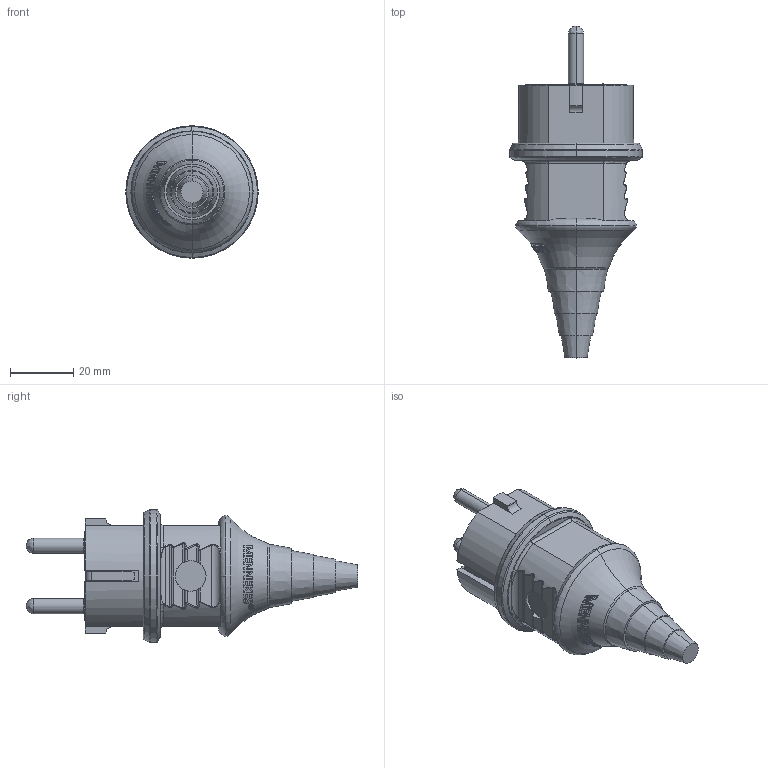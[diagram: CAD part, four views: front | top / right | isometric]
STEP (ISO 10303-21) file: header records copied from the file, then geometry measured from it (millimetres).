
FILE_DESCRIPTION((''),'2;1');
FILE_NAME('1117856_ASM_SW0009','2018-08-13T',('hoffmannf'),('MENNEKES'),'PRO/ENGINEER BY PARAMETRIC TECHNOLOGY CORPORATION, 2015440','PRO/ENGINEER BY PARAMETRIC TECHNOLOGY CORPORATION, 2015440','');
FILE_SCHEMA(('AUTOMOTIVE_DESIGN { 1 0 10303 214 1 1 1 1 }'));
Length unit declared in the file: millimetre
Products named in the file (1): 1117856_ASM_SW0009
Bounding box: 41.8 x 104.7 x 41.8 mm (x, y, z)
Volume: 57033.9 mm3; surface area: 14071.8 mm2
Topology: 1 solids, 2 shells, 878 faces, 2282 edges, 1437 vertices
Faces by surface type: plane 432, cylinder 174, bspline 87, extrusion 82, torus 56, cone 35, sphere 12
Entity records: 38894 total; most frequent: CARTESIAN_POINT 11700, ORIENTED_EDGE 4564, DIRECTION 3776, EDGE_CURVE 2282, VERTEX_POINT 1437, AXIS2_PLACEMENT_3D 1295, VECTOR 1186, LINE 1104
